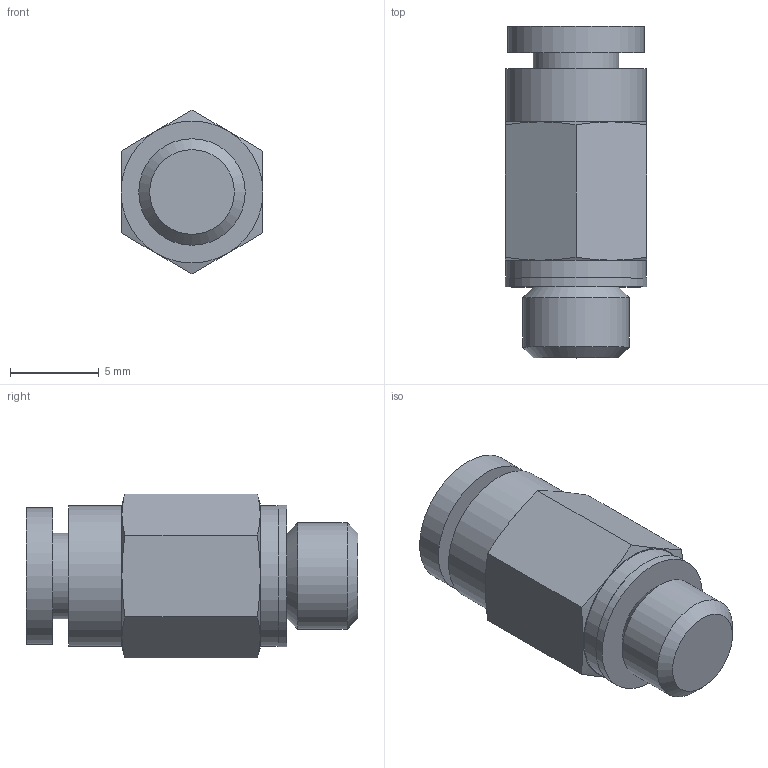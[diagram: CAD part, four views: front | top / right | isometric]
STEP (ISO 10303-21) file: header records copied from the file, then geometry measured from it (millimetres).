
FILE_DESCRIPTION(/* description */ ('STEP AP214'),/* implementation_level */ '2;1');
FILE_NAME(/* name */ 'KQ2H04-M6A',/* time_stamp */ '2023-03-09T07:18:01+01:00',/* author */ ('License CC BY-ND 4.0'),/* organization */ ('CADENAS'),/* preprocessor_version */ 'ST-DEVELOPER v18.102',/* originating_system */ 'PARTsolutions',/* authorisation */ ' ');
FILE_SCHEMA (('AUTOMOTIVE_DESIGN {1 0 10303 214 3 1 1}'));
Length unit declared in the file: millimetre
Products named in the file (1): KQ2H04-M6A
Bounding box: 8 x 18.7 x 9.24 mm (x, y, z)
Volume: 678.5 mm3; surface area: 794.1 mm2
Topology: 1 solids, 1 shells, 36 faces, 67 edges, 40 vertices
Faces by surface type: plane 15, cone 14, cylinder 7
Full cylindrical faces by diameter (mm): 4 x1, 4.8 x1, 6 x1, 7.7 x1, 7.9 x2, 8 x1
Entity records: 896 total; most frequent: CARTESIAN_POINT 207, DIRECTION 136, ORIENTED_EDGE 116, AXIS2_PLACEMENT_3D 65, EDGE_CURVE 58, EDGE_LOOP 52, FACE_BOUND 52, VERTEX_POINT 40
